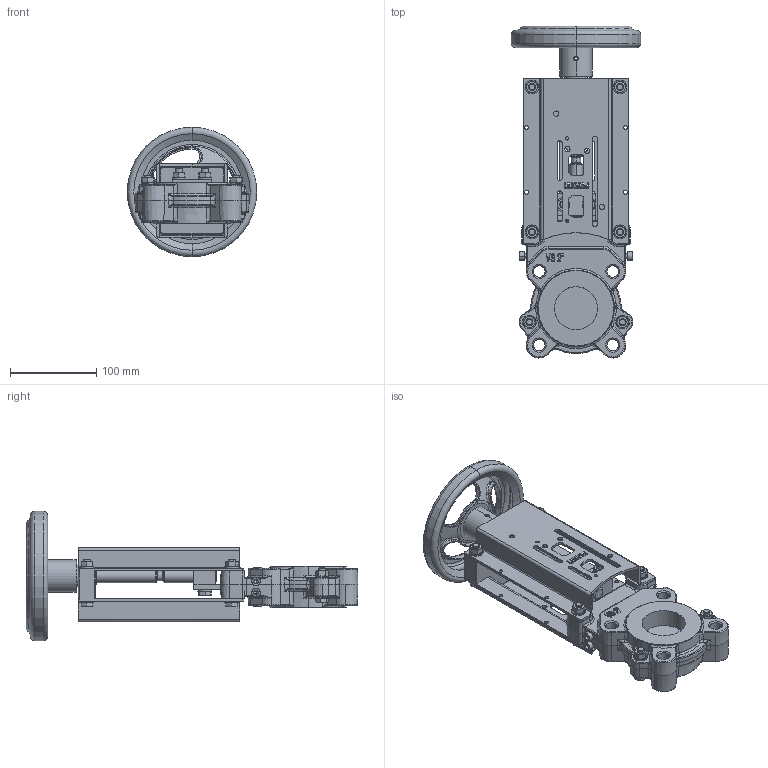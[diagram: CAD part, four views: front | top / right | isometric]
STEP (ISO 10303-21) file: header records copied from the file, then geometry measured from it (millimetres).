
FILE_DESCRIPTION (( 'STEP AP214' ), '1' );
FILE_NAME ('VSA DN 0050.STEP', '2015-09-23T10:53:58', ( 'admin' ), ( 'Hewlett-Packard Company' ), 'SwSTEP 2.0', 'SolidWorks 2013', '' );
FILE_SCHEMA (( 'AUTOMOTIVE_DESIGN' ));
Length unit declared in the file: millimetre
Products named in the file (1): VSA DN 0050
Bounding box: 150 x 384.61 x 150 mm (x, y, z)
Volume: 1047606.8 mm3; surface area: 330149.2 mm2
Topology: 40 solids, 42 shells, 1920 faces, 4711 edges, 2859 vertices
Faces by surface type: plane 691, cylinder 572, cone 287, bspline 236, torus 132, sphere 2
Entity records: 88392 total; most frequent: CARTESIAN_POINT 22882, ORIENTED_EDGE 9318, DIRECTION 8970, EDGE_CURVE 4659, AXIS2_PLACEMENT_3D 3480, VERTEX_POINT 2859, EDGE_LOOP 2134, VECTOR 2010
